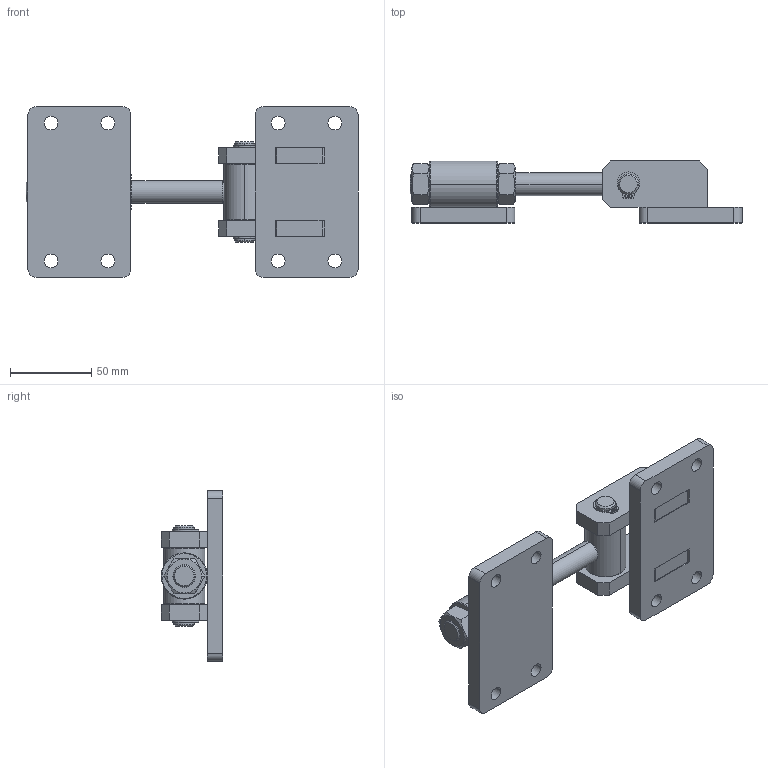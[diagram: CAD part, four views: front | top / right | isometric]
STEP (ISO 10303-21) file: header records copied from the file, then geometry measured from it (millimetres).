
FILE_DESCRIPTION (( 'STEP AP203' ), '1' );
FILE_NAME ('KFD-19.step', '2011-05-12T14:47:45', ( 'Usuario' ), ( '' ), 'SwSTEP 2.0', 'SolidWorks 2011', '' );
FILE_SCHEMA (( 'CONFIG_CONTROL_DESIGN' ));
Length unit declared in the file: millimetre
Products named in the file (10): KFD-19; 501-012; 11.50008; 03.20047; 16.20066; 05.20028; 05.20027; 15.10051; 02.10027; 02.10026
Assembly tree (12 placements, depth 2):
  KFD-19
    15.10051  x2
    05.20027
    501-012  x2
    11.50008  x2
    02.10026
    02.10027
    05.20028
    16.20066
    03.20047
Bounding box: 204.7 x 38.1 x 105 mm (x, y, z)
Volume: 220428.5 mm3; surface area: 70524.9 mm2
Topology: 12 solids, 12 shells, 202 faces, 498 edges, 324 vertices
Faces by surface type: plane 86, cylinder 84, cone 32
Entity records: 5661 total; most frequent: CARTESIAN_POINT 879, DIRECTION 823, ORIENTED_EDGE 710, EDGE_CURVE 355, AXIS2_PLACEMENT_3D 318, VERTEX_POINT 230, LINE 187, VECTOR 187
